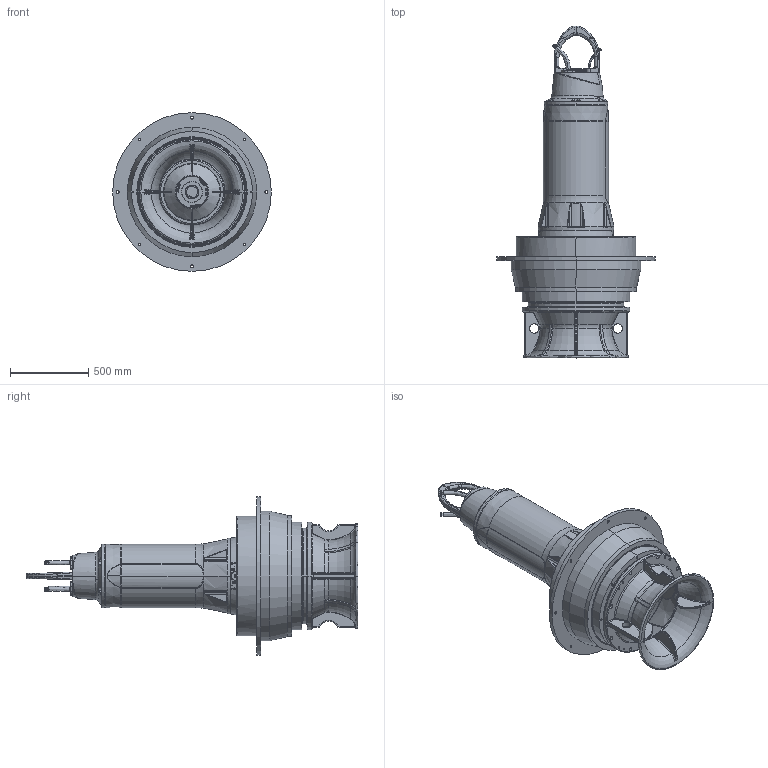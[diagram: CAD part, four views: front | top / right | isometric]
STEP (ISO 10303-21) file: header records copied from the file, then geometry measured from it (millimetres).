
FILE_DESCRIPTION (( 'STEP AP214' ), '1' );
FILE_NAME ('SE5 AFLC 0801-0803 FU A.STEP', '2020-09-25T06:48:42', ( '' ), ( '' ), 'SwSTEP 2.0', 'SolidWorks 2017', '' );
FILE_SCHEMA (( 'AUTOMOTIVE_DESIGN' ));
Length unit declared in the file: millimetre
Products named in the file (1): SE5 AFLC 0801-0803 FU A
Bounding box: 1015 x 2123.97 x 1015 mm (x, y, z)
Volume: 107264779.2 mm3; surface area: 12493695.2 mm2
Topology: 29 solids, 29 shells, 4374 faces, 10569 edges, 6149 vertices
Faces by surface type: bspline 1517, cylinder 1004, plane 787, torus 536, cone 459, sphere 71
Entity records: 332514 total; most frequent: CARTESIAN_POINT 193353, ORIENTED_EDGE 20622, DIRECTION 16791, EDGE_CURVE 10311, AXIS2_PLACEMENT_3D 6999, VERTEX_POINT 6148, EDGE_LOOP 4715, UNCERTAINTY_MEASURE_WITH_UNIT 4405
